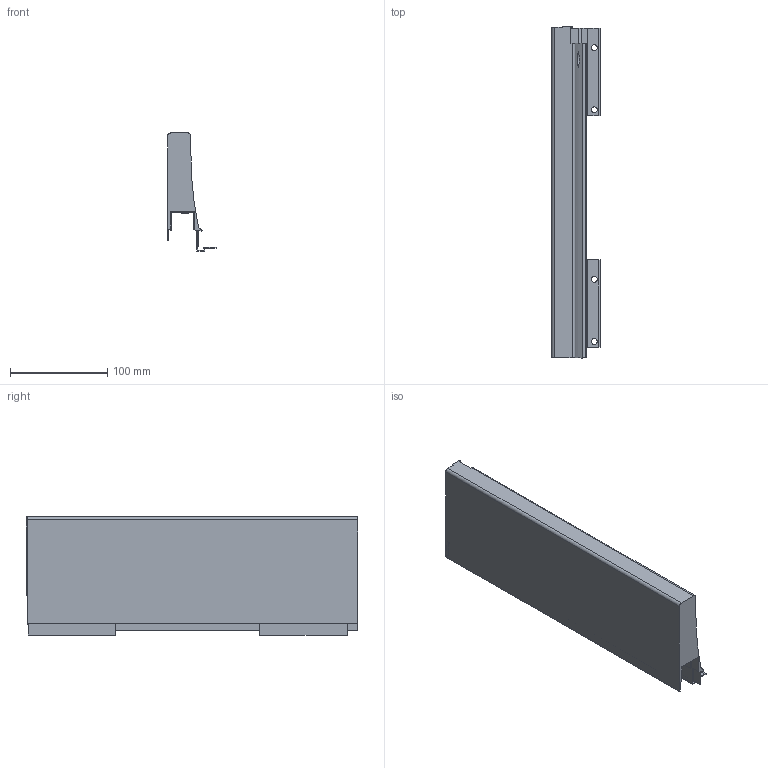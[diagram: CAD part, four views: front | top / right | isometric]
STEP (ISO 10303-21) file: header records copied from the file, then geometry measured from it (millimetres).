
FILE_DESCRIPTION (( 'STEP AP214' ), '1' );
FILE_NAME ('_XP Agantis Dekorseite H127 NL350 LI.step', '2010-07-08T06:22:13', ( 'grass' ), ( '' ), 'SwSTEP 2.0', 'SolidWorks 2010', '' );
FILE_SCHEMA (( 'AUTOMOTIVE_DESIGN' ));
Length unit declared in the file: millimetre
Products named in the file (1): _XP Agantis Dekorseite H127 NL350 LI
Bounding box: 50.01 x 341.5 x 121.5 mm (x, y, z)
Volume: 740653.1 mm3; surface area: 138101.1 mm2
Topology: 1 solids, 1 shells, 119 faces, 343 edges, 225 vertices
Faces by surface type: plane 94, cylinder 25
Entity records: 3999 total; most frequent: CARTESIAN_POINT 775, ORIENTED_EDGE 686, DIRECTION 630, EDGE_CURVE 343, LINE 292, VECTOR 292, VERTEX_POINT 225, AXIS2_PLACEMENT_3D 169
